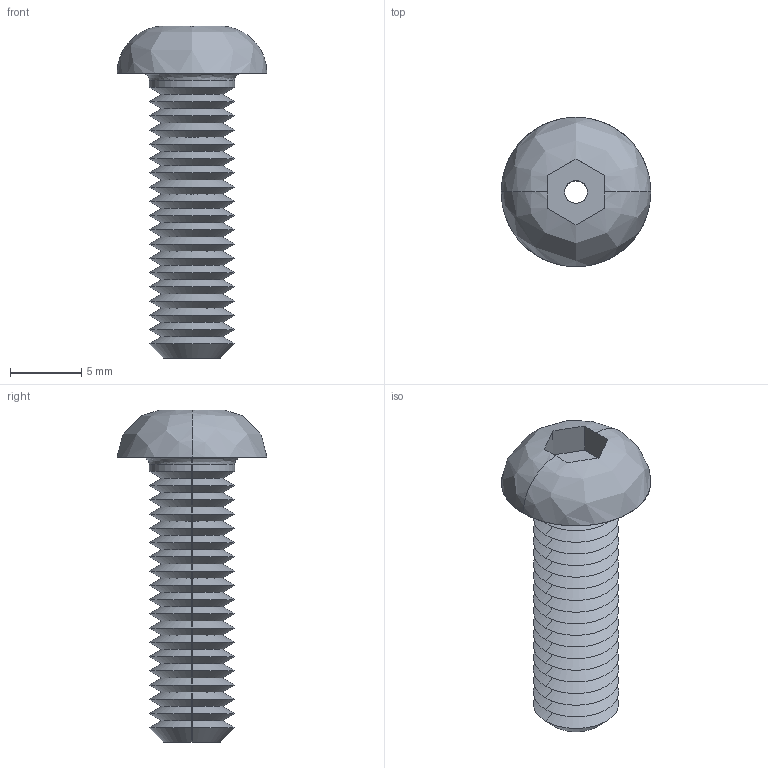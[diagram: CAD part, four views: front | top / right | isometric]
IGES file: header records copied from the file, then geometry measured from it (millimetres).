
Start section: SolidWorks IGES file using analytic representation for surfaces
Global section: file name: C:\Users\liam_\OneDrive\Documents\WORK\Work for WixRoyd\Job Files\J-00019 - Matt Davis CAD Checking\04. CAD Drawings\automotion20190605\P0094_v2\P0094_v2_20190712_IGES\P0094.060-020-A2.igs; native system: SolidWorks 2017; preprocessor: SolidWorks 2017; author: liam_; date: 190712.175549; units: millimetre
Bounding box: 10.5 x 10.5 x 23.3 mm (x, y, z)
Surface area: 963.9 mm2 (no closed solid volume)
Topology: 0 solids, 0 shells, 91 faces, 526 edges, 526 vertices
Faces by surface type: revolution 78, bspline 13
